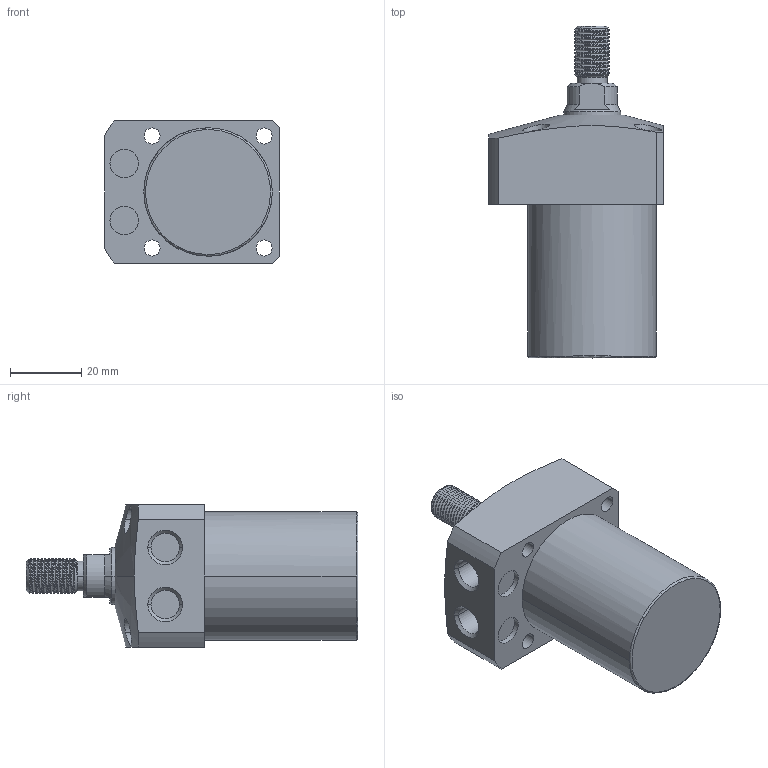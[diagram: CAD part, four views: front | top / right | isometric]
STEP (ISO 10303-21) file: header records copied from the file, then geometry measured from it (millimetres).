
FILE_DESCRIPTION((' '),'2;1');
FILE_NAME( 'TLL-036CT-035.STEP.stp', '2025-10-24T16:39:42', (' '), ('--- Datakit www.datakit.com---'), ' Datakit CrossCadWare V2024.1 Dec 21 2023', 'Mastercam 2025', ' ');
FILE_SCHEMA(('AUTOMOTIVE_DESIGN { 1 0 10303 214 1 1 1 1 }'));
Length unit declared in the file: millimetre
Products named in the file (1): TLL-036CT-035
Bounding box: 49 x 93 x 40 mm (x, y, z)
Volume: 86661.3 mm3; surface area: 15530.9 mm2
Topology: 1 solids, 1 shells, 104 faces, 361 edges, 270 vertices
Faces by surface type: cylinder 61, plane 23, cone 16, bspline 2, torus 2
Entity records: 11884 total; most frequent: CARTESIAN_POINT 8849, ORIENTED_EDGE 722, DIRECTION 532, EDGE_CURVE 361, VERTEX_POINT 270, AXIS2_PLACEMENT_3D 221, B_SPLINE_CURVE_WITH_KNOTS 153, EDGE_LOOP 123
